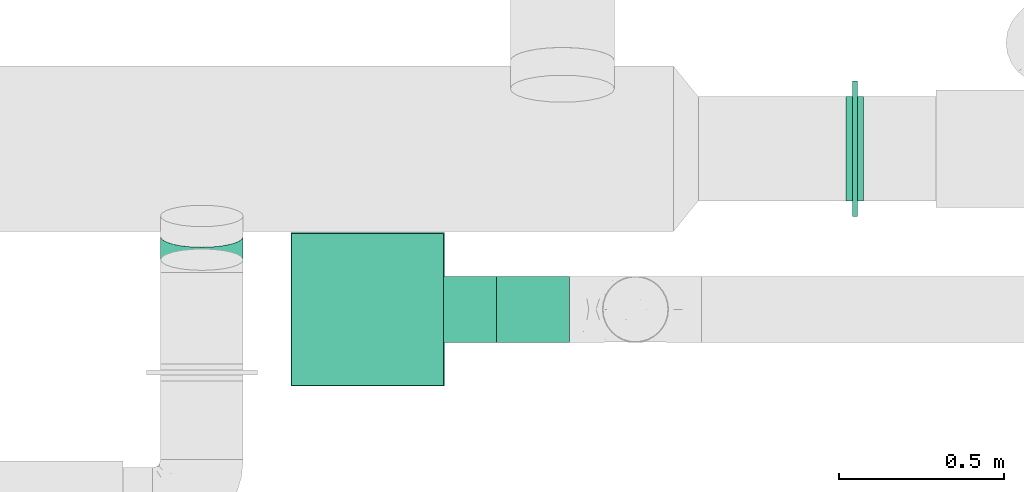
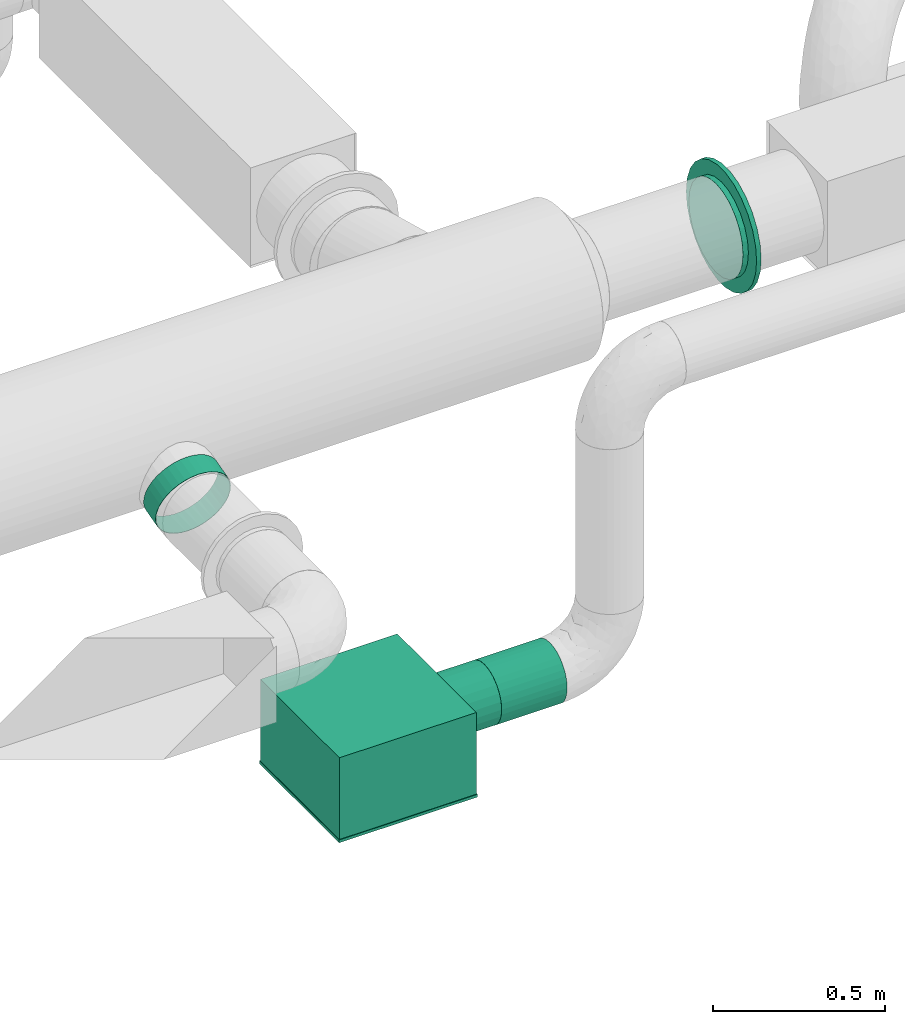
# One storey, part 18 of 31: 2 flow segments, 1 flow controller, 1 flow terminal.
"""IFC2X3 building model written with IfcOpenShell, lengths in millimetres."""

from ifc_helpers import new_model, entity, si_unit, converted_unit, derived_unit, direction, frame, origin_with_axes, origin_2d_with_axis, place, context, subcontext, project, spatial, hollow_circle, extrude, open_shell, surface_model, source, transform, mapped, type_object, element, save


model = new_model("IFC2X3")

# Units and contexts
model_context = context("Model", 3, precision=0.01, world=frame((0.0, 4.29681676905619e-09, 0.0)), true_north=direction((4.01073788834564e-13, 1.0)))
plan_context = context("Plan", 3, precision=0.01, world=frame((0.0, 4.29681676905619e-09, 0.0)), true_north=direction((4.01073788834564e-13, 1.0)))
body_context = subcontext(model_context, "Body", "Model", "MODEL_VIEW")
ifc_project = project(units=[converted_unit("PLANEANGLEUNIT", "DEGREE", entity("IfcPositiveLengthMeasure", 0.0174532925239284), si_unit("PLANEANGLEUNIT", "RADIAN"), dimensions=[0, 0, 0, 0, 0, 0, 0]), si_unit("AREAUNIT", "SQUARE_METRE"), si_unit("LENGTHUNIT", "METRE", prefix="MILLI"), si_unit("MASSUNIT", "GRAM", prefix="KILO"), si_unit("POWERUNIT", "WATT"), si_unit("PRESSUREUNIT", "PASCAL", prefix="KILO"), si_unit("FORCEUNIT", "NEWTON", prefix="KILO"), si_unit("ELECTRICVOLTAGEUNIT", "VOLT"), si_unit("ELECTRICCURRENTUNIT", "AMPERE"), si_unit("THERMODYNAMICTEMPERATUREUNIT", "DEGREE_CELSIUS"), si_unit("TIMEUNIT", "SECOND"), si_unit("VOLUMEUNIT", "CUBIC_METRE"), derived_unit("LINEARVELOCITYUNIT", [(si_unit("LENGTHUNIT", "METRE"), 1), (si_unit("TIMEUNIT", "SECOND"), -1)]), derived_unit("VOLUMETRICFLOWRATEUNIT", [(si_unit("VOLUMEUNIT", "CUBIC_METRE"), 1), (si_unit("TIMEUNIT", "SECOND"), -1)]), derived_unit("THERMALTRANSMITTANCEUNIT", [(si_unit("POWERUNIT", "WATT"), 1), (si_unit("THERMODYNAMICTEMPERATUREUNIT", "KELVIN"), -1), (si_unit("AREAUNIT", "SQUARE_METRE"), -1)]), derived_unit("SOUNDPRESSUREUNIT", [(si_unit("PRESSUREUNIT", "PASCAL"), 1)])], contexts=[model_context, plan_context])

# Site, building, storey
site_placement = place(None, frame((0.0, -4.29681676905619e-09, 0.0), z_axis=(0.0, 0.0, 1.0), x_axis=(1.0, 0.0, 0.0)))
site = spatial("IfcSite", under=ifc_project, at=site_placement, CompositionType="ELEMENT")
building_placement = place(site_placement, frame((0.0, 4.29681676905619e-09, 0.0), z_axis=(0.0, 0.0, 1.0), x_axis=(1.0, 0.0, 0.0)))
building = spatial("IfcBuilding", under=site, at=building_placement, Name="mc-building", CompositionType="ELEMENT")
storey_placement = place(building_placement, frame((0.0, 0.0, 210900.0), z_axis=(0.0, 0.0, 1.0), x_axis=(1.0, 0.0, 0.0)))
storey = spatial("IfcBuildingStorey", under=building, at=storey_placement, Name="Nivå F", CompositionType="ELEMENT", Elevation=210900.0)

# Flow controller
damper_type = type_object("IfcDamperType", Name="IRIS-031", PredefinedType="BALANCINGDAMPER")
shared_shape_1 = source(origin_with_axes(), body_context, "Body", "SurfaceModel", [
    surface_model("IfcShellBasedSurfaceModel", [(26.0, 78.75, -136.39901), (26.0, 0.0, -157.5), (26.0, 40.764, -152.13332), (26.0, 111.36932, -111.36932), (26.0, -111.36932, -111.36932), (26.0, 152.13332, 40.764), (26.0, 152.13332, -40.764), (26.0, 136.39901, -78.75), (26.0, -78.75, -136.39901), (26.0, -40.764, -152.13332), (26.0, -152.13332, -40.764), (26.0, -136.39901, -78.75), (26.0, 0.0, 157.5), (26.0, 157.5, 0.0), (26.0, 136.39901, 78.75), (26.0, 111.36932, 111.36932), (26.0, 78.75, 136.39901), (26.0, 40.764, 152.13332), (26.0, -40.764, 152.13332), (26.0, -152.13332, 40.764), (26.0, -136.39901, 78.75), (26.0, -157.5, 0.0), (26.0, -78.75, 136.39901), (26.0, -111.36932, 111.36932), (7.8, 0.0, 157.5), (7.8, 40.764, 152.13332), (7.8, 78.75, 136.39901), (7.8, 152.13332, 40.764), (7.8, 111.36932, 111.36932), (7.8, 136.39901, 78.75), (7.8, -152.13332, 40.764), (7.8, -78.75, 136.39901), (7.8, -136.39901, 78.75), (7.8, -111.36932, 111.36932), (7.8, -40.764, 152.13332), (7.8, -111.36932, -111.36932), (7.8, -157.5, 0.0), (7.8, 152.13332, -40.764), (7.8, 111.36932, -111.36932), (7.8, 136.39901, -78.75), (7.8, -78.75, -136.39901), (7.8, 78.75, -136.39901), (7.8, 0.0, -157.5), (7.8, 40.764, -152.13332), (7.8, -136.39901, -78.75), (7.8, -152.13332, -40.764), (7.8, -40.764, -152.13332), (7.8, 157.5, 0.0), (7.8, 116.45328, -168.71169), (7.8, -24.71002, -203.50531), (7.8, 72.694, -191.67833), (7.8, 181.51848, -95.26825), (7.8, 153.4447, -135.94015), (7.8, 199.04307, -49.05971), (7.8, 205.0, 0.0), (7.8, 199.04307, 49.05971), (7.8, -116.45328, 168.71169), (7.8, -181.51848, -95.26825), (7.8, -116.45328, -168.71169), (7.8, -72.694, -191.67833), (7.8, 24.71002, -203.50531), (7.8, -153.4447, -135.94015), (7.8, -205.0, 0.0), (7.8, -199.04307, -49.05971), (7.8, 181.51848, 95.26825), (7.8, 153.4447, 135.94015), (7.8, 116.45328, 168.71169), (7.8, 72.694, 191.67833), (7.8, 24.71002, 203.50531), (7.8, -24.71002, 203.50531), (7.8, -181.51848, 95.26825), (7.8, -199.04307, 49.05971), (7.8, -153.4447, 135.94015), (7.8, -72.694, 191.67833), (-7.8, 24.71002, 203.50531), (-7.8, 72.694, 191.67833), (-7.8, 116.45328, 168.71169), (-7.8, -24.71002, 203.50531), (-7.8, 153.4447, 135.94015), (-7.8, 181.51848, 95.26825), (-7.8, 199.04307, 49.05971), (-7.8, -116.45328, 168.71169), (-7.8, -72.694, 191.67833), (-7.8, -181.51848, 95.26825), (-7.8, -153.4447, 135.94015), (-7.8, -205.0, 0.0), (-7.8, -199.04307, 49.05971), (-7.8, 205.0, 0.0), (-7.8, 199.04307, -49.05971), (-7.8, 181.51848, -95.26825), (-7.8, 116.45328, -168.71169), (-7.8, -116.45328, -168.71169), (-7.8, 153.4447, -135.94015), (-7.8, -24.71002, -203.50531), (-7.8, 72.694, -191.67833), (-7.8, -181.51848, -95.26825), (-7.8, -153.4447, -135.94015), (-7.8, -199.04307, -49.05971), (-7.8, -72.694, -191.67833), (-7.8, 24.71002, -203.50531), (-7.8, 78.75, -136.39901), (-7.8, 0.0, -157.5), (-7.8, 40.764, -152.13332), (-7.8, 111.36932, -111.36932), (-7.8, -111.36932, -111.36932), (-7.8, 152.13332, 40.764), (-7.8, 152.13332, -40.764), (-7.8, 136.39901, -78.75), (-7.8, -78.75, -136.39901), (-7.8, -40.764, -152.13332), (-7.8, -152.13332, -40.764), (-7.8, -136.39901, -78.75), (-7.8, 0.0, 157.5), (-7.8, 157.5, 0.0), (-7.8, 136.39901, 78.75), (-7.8, 111.36932, 111.36932), (-7.8, 78.75, 136.39901), (-7.8, 40.764, 152.13332), (-7.8, -40.764, 152.13332), (-7.8, -152.13332, 40.764), (-7.8, -136.39901, 78.75), (-7.8, -157.5, 0.0), (-7.8, -78.75, 136.39901), (-7.8, -111.36932, 111.36932), (-26.0, 0.0, 157.5), (-26.0, 40.764, 152.13332), (-26.0, 78.75, 136.39901), (-26.0, 152.13332, 40.764), (-26.0, 111.36932, 111.36932), (-26.0, 136.39901, 78.75), (-26.0, -152.13332, 40.764), (-26.0, -78.75, 136.39901), (-26.0, -136.39901, 78.75), (-26.0, -111.36932, 111.36932), (-26.0, -40.764, 152.13332), (-26.0, -111.36932, -111.36932), (-26.0, -157.5, 0.0), (-26.0, 152.13332, -40.764), (-26.0, 111.36932, -111.36932), (-26.0, 136.39901, -78.75), (-26.0, -78.75, -136.39901), (-26.0, 78.75, -136.39901), (-26.0, 0.0, -157.5), (-26.0, 40.764, -152.13332), (-26.0, -136.39901, -78.75), (-26.0, -152.13332, -40.764), (-26.0, -40.764, -152.13332), (-26.0, 157.5, 0.0)], [open_shell([[[0, 1, 2]], [[3, 4, 0]], [[5, 4, 3]], [[6, 3, 7]], [[5, 3, 6]], [[1, 8, 9]], [[1, 0, 8]], [[4, 10, 11]], [[8, 0, 4]], [[4, 12, 10]], [[6, 13, 5]], [[5, 14, 15]], [[5, 15, 16]], [[16, 17, 12]], [[16, 12, 5]], [[12, 18, 10]], [[19, 18, 20]], [[19, 21, 10]], [[20, 22, 23]], [[22, 20, 18]], [[18, 19, 10]], [[4, 5, 12]], [[24, 25, 26]], [[24, 26, 27]], [[28, 29, 27]], [[28, 27, 26]], [[24, 27, 30]], [[31, 32, 33]], [[32, 31, 34]], [[34, 30, 32]], [[34, 24, 30]], [[30, 35, 36]], [[30, 27, 35]], [[27, 37, 35]], [[38, 37, 39]], [[40, 38, 41]], [[37, 38, 40]], [[42, 41, 43]], [[36, 44, 45]], [[35, 44, 36]], [[40, 42, 46]], [[40, 35, 37]], [[42, 40, 41]], [[37, 27, 47]], [[45, 10, 36]], [[44, 11, 45]], [[8, 35, 40]], [[44, 35, 4]], [[9, 40, 46]], [[45, 11, 10]], [[10, 21, 36]], [[9, 8, 40]], [[4, 35, 8]], [[4, 11, 44]], [[1, 9, 46]], [[46, 42, 1]], [[43, 2, 42]], [[41, 0, 43]], [[7, 38, 39]], [[41, 38, 3]], [[6, 39, 37]], [[41, 3, 0]], [[0, 2, 43]], [[13, 6, 37]], [[7, 39, 6]], [[7, 3, 38]], [[47, 13, 37]], [[42, 2, 1]], [[27, 5, 47]], [[29, 14, 27]], [[16, 28, 26]], [[29, 28, 15]], [[17, 26, 25]], [[27, 14, 5]], [[5, 13, 47]], [[17, 16, 26]], [[15, 28, 16]], [[15, 14, 29]], [[12, 17, 25]], [[25, 24, 12]], [[18, 24, 34]], [[20, 32, 30]], [[32, 23, 33]], [[19, 30, 36]], [[34, 22, 18]], [[22, 34, 31]], [[22, 31, 23]], [[31, 33, 23]], [[32, 20, 23]], [[19, 20, 30]], [[36, 21, 19]], [[24, 18, 12]], [[48, 49, 50]], [[51, 48, 52]], [[51, 53, 54]], [[48, 51, 55]], [[56, 57, 48]], [[49, 58, 59]], [[49, 60, 50]], [[61, 58, 57]], [[58, 49, 48]], [[58, 48, 57]], [[57, 62, 63]], [[54, 55, 51]], [[55, 64, 65]], [[55, 65, 66]], [[66, 67, 68]], [[55, 66, 56]], [[69, 66, 68]], [[62, 70, 71]], [[70, 62, 72]], [[73, 56, 66]], [[72, 62, 56]], [[57, 56, 62]], [[69, 73, 66]], [[56, 48, 55]], [[74, 75, 76]], [[77, 74, 76]], [[78, 79, 80]], [[78, 80, 76]], [[81, 76, 80]], [[76, 82, 77]], [[76, 81, 82]], [[83, 84, 85]], [[85, 86, 83]], [[84, 81, 85]], [[80, 85, 81]], [[80, 87, 85]], [[87, 88, 89]], [[87, 89, 90]], [[87, 90, 91]], [[90, 89, 92]], [[93, 90, 94]], [[95, 91, 96]], [[97, 85, 95]], [[91, 95, 87]], [[98, 91, 93]], [[90, 93, 91]], [[99, 93, 94]], [[95, 85, 87]], [[97, 63, 85]], [[95, 57, 97]], [[58, 96, 91]], [[91, 98, 59]], [[95, 96, 61]], [[93, 49, 98]], [[97, 57, 63]], [[63, 62, 85]], [[59, 58, 91]], [[61, 96, 58]], [[61, 57, 95]], [[49, 59, 98]], [[93, 60, 49]], [[94, 50, 99]], [[90, 48, 94]], [[89, 88, 51]], [[90, 92, 52]], [[88, 87, 53]], [[92, 89, 52]], [[94, 48, 50]], [[50, 60, 99]], [[51, 52, 89]], [[53, 51, 88]], [[87, 54, 53]], [[52, 48, 90]], [[99, 60, 93]], [[80, 55, 87]], [[79, 64, 80]], [[66, 78, 76]], [[76, 75, 67]], [[79, 78, 65]], [[74, 68, 75]], [[80, 64, 55]], [[55, 54, 87]], [[67, 66, 76]], [[65, 78, 66]], [[65, 64, 79]], [[68, 67, 75]], [[74, 69, 68]], [[73, 82, 81]], [[77, 82, 69]], [[83, 86, 70]], [[72, 84, 83]], [[56, 81, 84]], [[71, 86, 85]], [[73, 69, 82]], [[73, 81, 56]], [[56, 84, 72]], [[83, 70, 72]], [[71, 70, 86]], [[62, 71, 85]], [[77, 69, 74]], [[100, 101, 102]], [[103, 104, 100]], [[105, 104, 103]], [[106, 103, 107]], [[105, 103, 106]], [[101, 108, 109]], [[101, 100, 108]], [[104, 110, 111]], [[108, 100, 104]], [[104, 112, 110]], [[106, 113, 105]], [[105, 114, 115]], [[105, 115, 116]], [[116, 117, 112]], [[116, 112, 105]], [[112, 118, 110]], [[119, 118, 120]], [[119, 121, 110]], [[120, 122, 123]], [[122, 120, 118]], [[118, 119, 110]], [[104, 105, 112]], [[124, 125, 126]], [[124, 126, 127]], [[128, 129, 127]], [[128, 127, 126]], [[124, 127, 130]], [[131, 132, 133]], [[132, 131, 134]], [[134, 130, 132]], [[134, 124, 130]], [[130, 135, 136]], [[130, 127, 135]], [[127, 137, 135]], [[138, 137, 139]], [[140, 138, 141]], [[137, 138, 140]], [[142, 141, 143]], [[136, 144, 145]], [[135, 144, 136]], [[140, 142, 146]], [[140, 135, 137]], [[142, 140, 141]], [[137, 127, 147]], [[145, 110, 136]], [[144, 111, 145]], [[108, 135, 140]], [[144, 135, 104]], [[109, 140, 146]], [[145, 111, 110]], [[110, 121, 136]], [[109, 108, 140]], [[104, 135, 108]], [[104, 111, 144]], [[101, 109, 146]], [[146, 142, 101]], [[143, 102, 142]], [[141, 100, 143]], [[107, 138, 139]], [[141, 138, 103]], [[106, 139, 137]], [[141, 103, 100]], [[100, 102, 143]], [[113, 106, 137]], [[107, 139, 106]], [[107, 103, 138]], [[147, 113, 137]], [[142, 102, 101]], [[127, 105, 147]], [[129, 114, 127]], [[116, 128, 126]], [[129, 128, 115]], [[117, 126, 125]], [[127, 114, 105]], [[105, 113, 147]], [[117, 116, 126]], [[115, 128, 116]], [[115, 114, 129]], [[112, 117, 125]], [[125, 124, 112]], [[118, 124, 134]], [[120, 132, 130]], [[132, 123, 133]], [[119, 130, 136]], [[134, 122, 118]], [[122, 134, 131]], [[122, 131, 123]], [[131, 133, 123]], [[132, 120, 123]], [[119, 120, 130]], [[136, 121, 119]], [[124, 118, 112]]])]),
])
flow_controller_placement = place(storey_placement, frame((726469.0256, 438494.89839, 3950.0), z_axis=(0.0, 0.0, 1.0), x_axis=(1.0, 0.0, 0.0)))
element("IfcFlowController", 1, at=flow_controller_placement, inside=storey, type_object=damper_type, Name="IRIS-031", context=body_context, shape_type="MappedRepresentation", body=[
    mapped(shared_shape_1, transform((0.0, 0.0, 0.0), scale=1.0)),
])

# Flow segments
duct_segment_type = type_object("IfcDuctSegmentType", Name="KK001T - Spiro kanaler, Forsinket stål", PredefinedType="RIGIDSEGMENT")
shared_shape_2 = source(origin_with_axes(), body_context, "Body", "SweptSolid", [
    extrude(hollow_circle(Radius=125.0, WallThickness=2.0, at=origin_2d_with_axis()), frame((0.0, 0.0, 0.0), z_axis=(1.0, 0.0, 0.0), x_axis=(0.0, 1.0, 0.0)), (0.0, 0.0, 1.0), 72.3),
])
flow_segment_1_placement = place(storey_placement, frame((724493.89393, 438229.26879, 3878.82475999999), z_axis=(0.0, -0.258818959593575, 0.965925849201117), x_axis=(0.0, -0.965925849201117, -0.258818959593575)))
element("IfcFlowSegment", 2, at=flow_segment_1_placement, inside=storey, type_object=duct_segment_type, Name="KK001T - Spiro kanaler, Forsinket stål", context=body_context, shape_type="MappedRepresentation", body=[
    mapped(shared_shape_2, transform((0.0, 0.0, 0.0), scale=1.0)),
])
shared_shape_3 = source(origin_with_axes(), body_context, "Body", "SweptSolid", [
    extrude(hollow_circle(Radius=100.0, WallThickness=2.0, at=origin_2d_with_axis()), frame((0.0, 0.0, 0.0), z_axis=(1.0, 0.0, 0.0), x_axis=(0.0, 1.0, 0.0)), (0.0, 0.0, 1.0), 220.0),
])
flow_segment_2_placement = place(storey_placement, frame((725385.46533, 438009.23478, 2965.0), z_axis=(0.0, 0.0, 1.0), x_axis=(1.0, 0.0, 0.0)))
element("IfcFlowSegment", 3, at=flow_segment_2_placement, inside=storey, type_object=duct_segment_type, Name="KK001T - Spiro kanaler, Forsinket stål", context=body_context, shape_type="MappedRepresentation", body=[
    mapped(shared_shape_3, transform((0.0, 0.0, 0.0), scale=1.0)),
])

# Flow terminal
air_terminal_type = type_object("IfcAirTerminalType", Name="NS19-H-S-2-200 - 4-way", PredefinedType="NOTDEFINED")
shared_shape_4 = source(origin_with_axes(), body_context, "Body", "SurfaceModel", [
    surface_model("IfcShellBasedSurfaceModel", [(-231.99999, 231.99999, 0.0), (-231.99999, -231.99999, 0.0), (231.99999, -231.99999, 0.0), (231.99999, 231.99999, 0.0), (231.99999, 231.99999, -10.0), (231.99999, -231.99999, -10.0), (-231.99999, -231.99999, -10.0), (-231.99999, 231.99999, -10.0), (-230.0, 230.0, 289.99999), (-230.0, -230.0, 289.99999), (230.0, -230.0, 289.99999), (230.0, 230.0, 289.99999), (230.0, 230.0, 0.0), (230.0, -230.0, 0.0), (-230.0, -230.0, 0.0), (-230.0, 230.0, 0.0), (-230.0, 50.0, 78.39746), (-230.0, 70.71068, 94.28932), (-230.0, 49.9, 78.57067), (-230.0, 25.83014, 68.6006), (-230.0, 0.0, 65.2), (-230.0, 25.8819, 68.40742), (-230.0, 0.0, 65.0), (-230.0, 70.56926, 94.43075), (-230.0, 96.59259, 139.1181), (-230.0, 99.8, 164.99999), (-230.0, 96.39939, 139.16986), (-230.0, 100.0, 164.99999), (-230.0, 86.60254, 115.0), (-230.0, 86.42934, 115.1), (-230.0, -25.83014, 68.6006), (-230.0, -25.8819, 68.40742), (-230.0, -49.9, 78.57067), (-230.0, -70.71068, 94.28932), (-230.0, -50.0, 78.39746), (-230.0, -70.56926, 94.43075), (-230.0, -86.42934, 115.1), (-230.0, -86.60254, 115.0), (-230.0, -96.39939, 139.16986), (-230.0, -96.59259, 139.1181), (-230.0, -99.8, 164.99999), (-230.0, -100.0, 164.99999), (-230.0, 96.59259, 190.8819), (-230.0, 96.39939, 190.83014), (-230.0, 86.42934, 214.9), (-230.0, 86.60254, 214.99999), (-230.0, 70.56926, 235.56925), (-230.0, 70.71068, 235.71069), (-230.0, 50.0, 251.60254), (-230.0, 49.9, 251.42933), (-230.0, 25.83014, 261.3994), (-230.0, 25.8819, 261.59259), (-230.0, 0.0, 264.80001), (-230.0, 0.0, 264.99999), (-230.0, -86.60254, 214.99999), (-230.0, -86.42934, 214.9), (-230.0, -70.71068, 235.71069), (-230.0, -70.56926, 235.56925), (-230.0, -96.59259, 190.8819), (-230.0, -96.39939, 190.83014), (-230.0, -25.83014, 261.3994), (-230.0, -25.8819, 261.59259), (-230.0, -49.9, 251.42933), (-230.0, -50.0, 251.60254), (-390.0, 50.0, 251.60254), (-390.0, 70.71068, 235.71069), (-390.0, 49.9, 251.42933), (-390.0, 25.83014, 261.3994), (-390.0, 0.0, 264.80001), (-390.0, 25.8819, 261.59259), (-390.0, 0.0, 264.99999), (-390.0, 70.56926, 235.56925), (-390.0, 96.59259, 190.8819), (-390.0, 99.8, 164.99999), (-390.0, 96.39939, 190.83014), (-390.0, 100.0, 164.99999), (-390.0, 86.60254, 214.99999), (-390.0, 86.42934, 214.9), (-390.0, -25.83014, 261.3994), (-390.0, -25.8819, 261.59259), (-390.0, -49.9, 251.42933), (-390.0, -70.71068, 235.71069), (-390.0, -50.0, 251.60254), (-390.0, -70.56926, 235.56925), (-390.0, -86.42934, 214.9), (-390.0, -86.60254, 214.99999), (-390.0, -96.39939, 190.83014), (-390.0, -96.59259, 190.8819), (-390.0, -99.8, 164.99999), (-390.0, -100.0, 164.99999), (-390.0, 96.59259, 139.1181), (-390.0, 96.39939, 139.16986), (-390.0, 86.42934, 115.1), (-390.0, 86.60254, 115.0), (-390.0, 70.56926, 94.43075), (-390.0, 70.71068, 94.28932), (-390.0, 50.0, 78.39746), (-390.0, 49.9, 78.57067), (-390.0, 25.83014, 68.6006), (-390.0, 25.8819, 68.40742), (-390.0, 0.0, 65.2), (-390.0, 0.0, 65.0), (-390.0, -86.60254, 115.0), (-390.0, -86.42934, 115.1), (-390.0, -70.71068, 94.28932), (-390.0, -70.56926, 94.43075), (-390.0, -96.59259, 139.1181), (-390.0, -96.39939, 139.16986), (-390.0, -25.83014, 68.6006), (-390.0, -25.8819, 68.40742), (-390.0, -49.9, 78.57067), (-390.0, -50.0, 78.39746)], [open_shell([[[0, 1, 2]], [[2, 3, 0]], [[4, 5, 6]], [[6, 7, 4]], [[2, 1, 6]], [[6, 5, 2]], [[3, 2, 5]], [[5, 4, 3]], [[0, 3, 4]], [[4, 7, 0]], [[1, 0, 7]], [[7, 6, 1]], [[8, 9, 10]], [[10, 11, 8]], [[12, 13, 14]], [[14, 15, 12]], [[10, 9, 13]], [[14, 13, 9]], [[11, 10, 12]], [[13, 12, 10]], [[8, 11, 15]], [[12, 15, 11]], [[9, 8, 14]], [[15, 14, 8]], [[16, 17, 18]], [[16, 18, 19]], [[20, 21, 19]], [[21, 20, 22]], [[19, 21, 16]], [[18, 17, 23]], [[24, 25, 26]], [[25, 24, 27]], [[24, 26, 28]], [[23, 28, 29]], [[28, 23, 17]], [[29, 28, 26]], [[22, 30, 31]], [[31, 30, 32]], [[33, 34, 35]], [[32, 34, 31]], [[32, 35, 34]], [[22, 20, 30]], [[36, 37, 33]], [[37, 36, 38]], [[36, 33, 35]], [[39, 38, 40]], [[38, 39, 37]], [[39, 40, 41]], [[27, 42, 43]], [[43, 42, 44]], [[44, 45, 46]], [[45, 44, 42]], [[46, 45, 47]], [[47, 48, 49]], [[49, 48, 50]], [[50, 51, 52]], [[51, 50, 48]], [[52, 51, 53]], [[49, 46, 47]], [[54, 55, 56]], [[56, 55, 57]], [[55, 54, 58]], [[41, 59, 58]], [[58, 59, 55]], [[41, 40, 59]], [[60, 53, 61]], [[60, 61, 62]], [[57, 63, 56]], [[57, 62, 63]], [[63, 62, 61]], [[52, 53, 60]], [[43, 25, 27]], [[64, 65, 66]], [[64, 66, 67]], [[68, 69, 67]], [[69, 68, 70]], [[67, 69, 64]], [[66, 65, 71]], [[72, 73, 74]], [[73, 72, 75]], [[72, 74, 76]], [[71, 76, 77]], [[76, 71, 65]], [[77, 76, 74]], [[70, 78, 79]], [[79, 78, 80]], [[81, 82, 83]], [[80, 82, 79]], [[80, 83, 82]], [[70, 68, 78]], [[84, 85, 81]], [[85, 84, 86]], [[84, 81, 83]], [[87, 86, 88]], [[86, 87, 85]], [[87, 88, 89]], [[75, 90, 91]], [[91, 90, 92]], [[92, 93, 94]], [[93, 92, 90]], [[94, 93, 95]], [[95, 96, 97]], [[97, 96, 98]], [[98, 99, 100]], [[99, 98, 96]], [[100, 99, 101]], [[97, 94, 95]], [[102, 103, 104]], [[104, 103, 105]], [[103, 102, 106]], [[89, 107, 106]], [[106, 107, 103]], [[89, 88, 107]], [[108, 101, 109]], [[108, 109, 110]], [[105, 111, 104]], [[105, 110, 111]], [[111, 110, 109]], [[100, 101, 108]], [[91, 73, 75]], [[39, 106, 102]], [[104, 37, 102]], [[34, 111, 109]], [[104, 111, 33]], [[31, 109, 101]], [[106, 41, 89]], [[106, 39, 41]], [[102, 37, 39]], [[104, 33, 37]], [[34, 33, 111]], [[109, 31, 34]], [[101, 22, 31]], [[21, 99, 96]], [[95, 16, 96]], [[28, 93, 90]], [[95, 93, 17]], [[24, 90, 75]], [[99, 21, 22]], [[96, 16, 21]], [[95, 17, 16]], [[93, 28, 17]], [[24, 28, 90]], [[75, 27, 24]], [[99, 22, 101]], [[75, 72, 42]], [[48, 64, 69]], [[64, 47, 65]], [[51, 69, 70]], [[72, 45, 42]], [[42, 27, 75]], [[76, 47, 45]], [[76, 65, 47]], [[47, 64, 48]], [[69, 51, 48]], [[76, 45, 72]], [[70, 53, 51]], [[61, 79, 82]], [[81, 63, 82]], [[54, 85, 87]], [[81, 85, 56]], [[58, 87, 89]], [[79, 61, 53]], [[82, 63, 61]], [[81, 56, 63]], [[85, 54, 56]], [[58, 54, 87]], [[89, 41, 58]], [[79, 53, 70]], [[103, 107, 38]], [[103, 36, 105]], [[108, 110, 32]], [[35, 110, 105]], [[100, 108, 30]], [[88, 40, 107]], [[40, 38, 107]], [[38, 36, 103]], [[36, 35, 105]], [[110, 35, 32]], [[32, 30, 108]], [[30, 20, 100]], [[97, 98, 19]], [[97, 18, 94]], [[91, 92, 29]], [[23, 92, 94]], [[73, 91, 26]], [[20, 19, 98]], [[19, 18, 97]], [[18, 23, 94]], [[23, 29, 92]], [[91, 29, 26]], [[26, 25, 73]], [[100, 20, 98]], [[43, 74, 73]], [[67, 66, 49]], [[71, 46, 66]], [[68, 67, 50]], [[43, 44, 74]], [[73, 25, 43]], [[44, 46, 77]], [[46, 71, 77]], [[49, 66, 46]], [[49, 50, 67]], [[74, 44, 77]], [[50, 52, 68]], [[80, 78, 60]], [[80, 62, 83]], [[86, 84, 55]], [[57, 84, 83]], [[88, 86, 59]], [[52, 60, 78]], [[60, 62, 80]], [[62, 57, 83]], [[57, 55, 84]], [[86, 55, 59]], [[59, 40, 88]], [[68, 52, 78]]])]),
])
flow_terminal_placement = place(storey_placement, frame((724995.43726, 438009.23478, 2799.98813000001), z_axis=(0.0, 0.0, 1.0), x_axis=(-1.0, 0.0, 0.0)))
element("IfcFlowTerminal", 4, at=flow_terminal_placement, inside=storey, type_object=air_terminal_type, Name="NS19-H-S-2-200 - 4-way", context=body_context, shape_type="MappedRepresentation", body=[
    mapped(shared_shape_4, transform((0.0, 0.0, 0.0), scale=1.0)),
])

save(model, "model.ifc")
